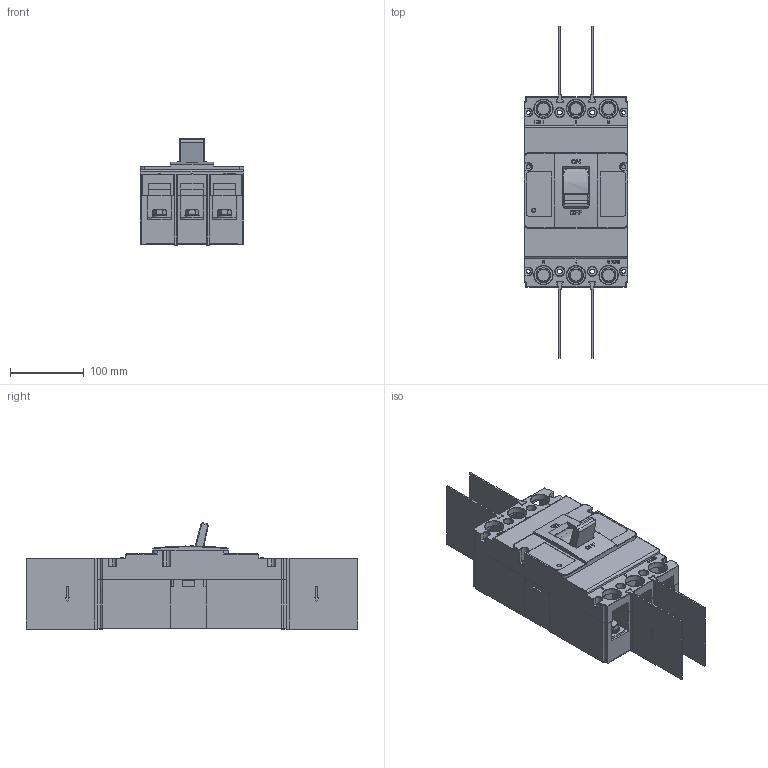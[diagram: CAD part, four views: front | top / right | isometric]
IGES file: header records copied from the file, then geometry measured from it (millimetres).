
Start section: SolidWorks IGES file using analytic representation for surfaces
Global section: file name: \\Brjgs100\dfsweg\GROUPS\BR_SC_JGS_WA_TECNICO\ENG\Usuarios\Rodrigob\conversão\Disjuntor de Caixa Moldada\Produto\DWP\DWP400\DWP400.IGS; native system: SolidWorks 2016; preprocessor: SolidWorks 2016; author: rodrigob; date: 180709.140401; units: millimetre
Bounding box: 140 x 449 x 143.73 mm (x, y, z)
Surface area: 689313.4 mm2 (no closed solid volume)
Topology: 0 solids, 0 shells, 2516 faces, 23099 edges, 23063 vertices
Faces by surface type: bspline 1890, revolution 626
